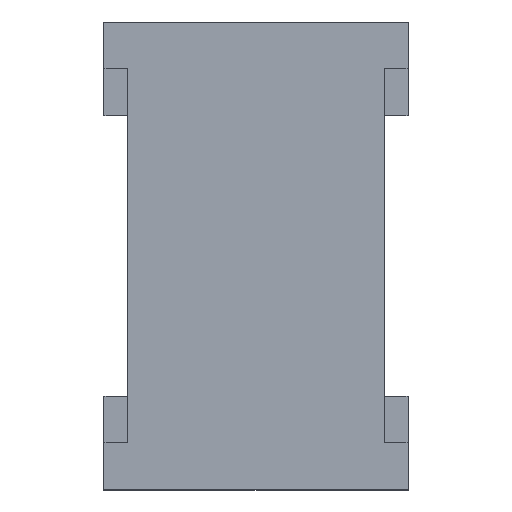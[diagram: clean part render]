
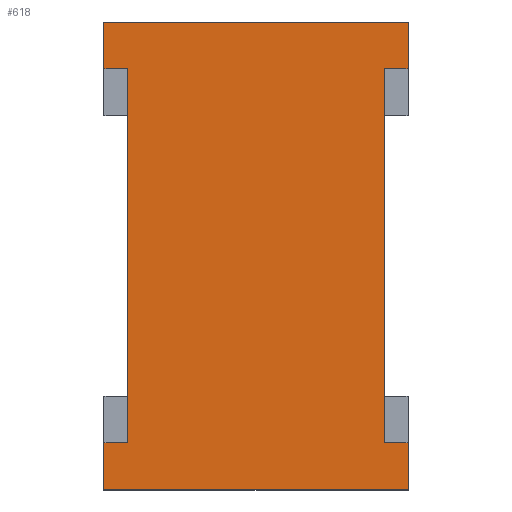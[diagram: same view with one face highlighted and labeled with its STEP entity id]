
A CAD part, top view. The second image highlights one B-rep face of the part: STEP entity #618.
In plain terms, the highlighted planar face has unit normal (0, 0, 1).
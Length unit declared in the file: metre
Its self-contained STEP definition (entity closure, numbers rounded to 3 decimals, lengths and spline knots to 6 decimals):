
#165=ORIENTED_EDGE('',*,*,#206,.F.);
#166=ORIENTED_EDGE('',*,*,#217,.T.);
#167=ORIENTED_EDGE('',*,*,#201,.T.);
#168=ORIENTED_EDGE('',*,*,#275,.T.);
#169=ORIENTED_EDGE('',*,*,#258,.T.);
#170=ORIENTED_EDGE('',*,*,#256,.T.);
#171=ORIENTED_EDGE('',*,*,#242,.F.);
#172=ORIENTED_EDGE('',*,*,#228,.F.);
#173=ORIENTED_EDGE('',*,*,#239,.T.);
#174=ORIENTED_EDGE('',*,*,#270,.T.);
#175=ORIENTED_EDGE('',*,*,#262,.T.);
#176=ORIENTED_EDGE('',*,*,#276,.T.);
#201=EDGE_CURVE('',#284,#283,#341,.T.);
#206=EDGE_CURVE('',#288,#286,#346,.T.);
#217=EDGE_CURVE('',#288,#284,#357,.T.);
#228=EDGE_CURVE('',#304,#305,#368,.T.);
#239=EDGE_CURVE('',#304,#313,#379,.T.);
#242=EDGE_CURVE('',#305,#314,#382,.T.);
#256=EDGE_CURVE('',#324,#314,#396,.T.);
#258=EDGE_CURVE('',#325,#324,#398,.T.);
#262=EDGE_CURVE('',#329,#328,#402,.T.);
#270=EDGE_CURVE('',#313,#329,#410,.T.);
#275=EDGE_CURVE('',#283,#325,#415,.T.);
#276=EDGE_CURVE('',#328,#286,#416,.T.);
#283=VERTEX_POINT('',#900);
#284=VERTEX_POINT('',#902);
#286=VERTEX_POINT('',#907);
#288=VERTEX_POINT('',#911);
#304=VERTEX_POINT('',#955);
#305=VERTEX_POINT('',#957);
#313=VERTEX_POINT('',#977);
#314=VERTEX_POINT('',#981);
#324=VERTEX_POINT('',#1013);
#325=VERTEX_POINT('',#1017);
#328=VERTEX_POINT('',#1024);
#329=VERTEX_POINT('',#1026);
#341=LINE('',#901,#425);
#346=LINE('',#912,#430);
#357=LINE('',#934,#441);
#368=LINE('',#956,#452);
#379=LINE('',#978,#463);
#382=LINE('',#984,#466);
#396=LINE('',#1012,#480);
#398=LINE('',#1016,#482);
#402=LINE('',#1025,#486);
#410=LINE('',#1040,#494);
#415=LINE('',#1049,#499);
#416=LINE('',#1050,#500);
#425=VECTOR('',#752,1.);
#430=VECTOR('',#759,1.);
#441=VECTOR('',#776,1.);
#452=VECTOR('',#793,1.);
#463=VECTOR('',#808,1.);
#466=VECTOR('',#813,1.);
#480=VECTOR('',#839,1.);
#482=VECTOR('',#843,1.);
#486=VECTOR('',#849,1.);
#494=VECTOR('',#863,1.);
#499=VECTOR('',#876,1.);
#500=VECTOR('',#877,1.);
#528=EDGE_LOOP('',(#165,#166,#167,#168,#169,#170,#171,#172,#173,#174,#175,
#176));
#558=FACE_BOUND('',#528,.T.);
#588=PLANE('',#733);
#618=ADVANCED_FACE('',(#558),#588,.F.);
#733=AXIS2_PLACEMENT_3D('',#1048,#874,#875);
#752=DIRECTION('',(-1.,0.,0.));
#759=DIRECTION('',(-1.,0.,0.));
#776=DIRECTION('',(0.,-1.,0.));
#793=DIRECTION('',(0.,-1.,0.));
#808=DIRECTION('',(1.,0.,0.));
#813=DIRECTION('',(1.,0.,0.));
#839=DIRECTION('',(0.,1.,0.));
#843=DIRECTION('',(1.,0.,0.));
#849=DIRECTION('',(-1.,0.,0.));
#863=DIRECTION('',(0.,1.,0.));
#874=DIRECTION('',(0.,0.,-1.));
#875=DIRECTION('',(0.,-1.,0.));
#876=DIRECTION('',(0.,-1.,0.));
#877=DIRECTION('',(0.,-1.,0.));
#900=CARTESIAN_POINT('',(-0.110928,-0.039544,0.0101));
#901=CARTESIAN_POINT('',(-0.110828,-0.039544,0.0101));
#902=CARTESIAN_POINT('',(-0.110828,-0.039544,0.0101));
#907=CARTESIAN_POINT('',(-0.110928,-0.037944,0.0101));
#911=CARTESIAN_POINT('',(-0.110828,-0.037944,0.0101));
#912=CARTESIAN_POINT('',(-0.110828,-0.037944,0.0101));
#934=CARTESIAN_POINT('',(-0.110828,-0.039544,0.0101));
#955=CARTESIAN_POINT('',(-0.109728,-0.037944,0.0101));
#956=CARTESIAN_POINT('',(-0.109728,-0.039544,0.0101));
#957=CARTESIAN_POINT('',(-0.109728,-0.039544,0.0101));
#977=CARTESIAN_POINT('',(-0.109628,-0.037944,0.0101));
#978=CARTESIAN_POINT('',(-0.109728,-0.037944,0.0101));
#981=CARTESIAN_POINT('',(-0.109628,-0.039544,0.0101));
#984=CARTESIAN_POINT('',(-0.109728,-0.039544,0.0101));
#1012=CARTESIAN_POINT('',(-0.109628,-0.039744,0.0101));
#1013=CARTESIAN_POINT('',(-0.109628,-0.039744,0.0101));
#1016=CARTESIAN_POINT('',(-0.109628,-0.039744,0.0101));
#1017=CARTESIAN_POINT('',(-0.110928,-0.039744,0.0101));
#1024=CARTESIAN_POINT('',(-0.110928,-0.037744,0.0101));
#1025=CARTESIAN_POINT('',(-0.109628,-0.037744,0.0101));
#1026=CARTESIAN_POINT('',(-0.109628,-0.037744,0.0101));
#1040=CARTESIAN_POINT('',(-0.109628,-0.039744,0.0101));
#1048=CARTESIAN_POINT('',(-0.110278,-0.038744,0.0101));
#1049=CARTESIAN_POINT('',(-0.110928,-0.039744,0.0101));
#1050=CARTESIAN_POINT('',(-0.110928,-0.039744,0.0101));
